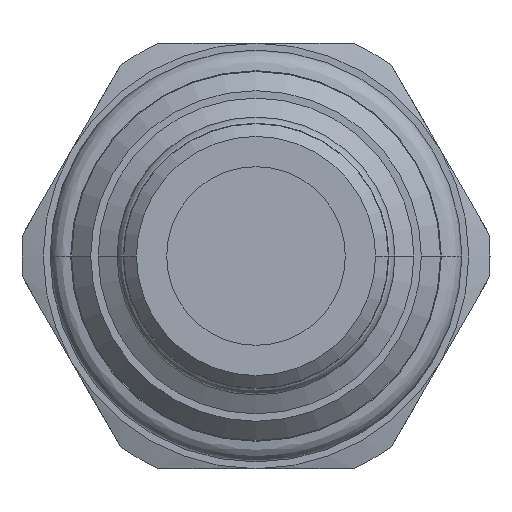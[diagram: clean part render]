
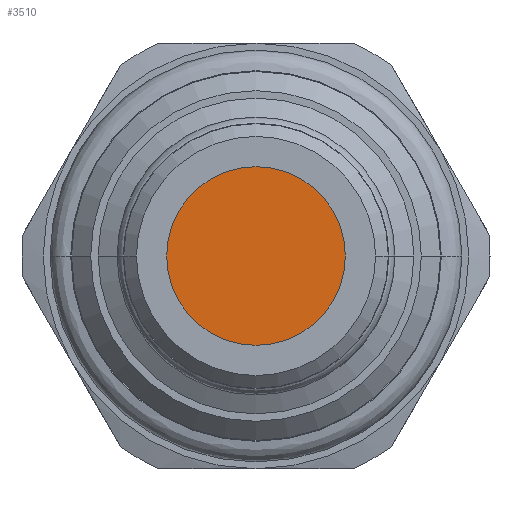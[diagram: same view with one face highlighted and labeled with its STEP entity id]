
A CAD part, front view. The second image highlights one B-rep face of the part: STEP entity #3510.
In plain terms, the highlighted planar face has unit normal (0, -1, 0).
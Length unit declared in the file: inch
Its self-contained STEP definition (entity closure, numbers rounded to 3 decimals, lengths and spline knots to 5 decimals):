
#1135=CARTESIAN_POINT('',(0.,-1.31577,0.));
#1136=DIRECTION('',(0.,-1.,0.));
#1137=DIRECTION('',(0.,0.,-1.));
#1138=AXIS2_PLACEMENT_3D('',#1135,#1136,#1137);
#1140=CARTESIAN_POINT('',(0.,-1.31577,0.));
#1141=DIRECTION('',(0.,-1.,0.));
#1142=DIRECTION('',(0.,0.,1.));
#1143=AXIS2_PLACEMENT_3D('',#1140,#1141,#1142);
#1827=CARTESIAN_POINT('',(0.,-1.31577,-0.21));
#1828=CARTESIAN_POINT('',(0.,-1.31577,0.21));
#1829=VERTEX_POINT('',#1827);
#1830=VERTEX_POINT('',#1828);
#3501=CARTESIAN_POINT('',(0.,-1.31577,0.));
#3502=DIRECTION('',(0.,-1.,0.));
#3503=DIRECTION('',(0.,0.,-1.));
#3504=AXIS2_PLACEMENT_3D('',#3501,#3502,#3503);
#3505=PLANE('',#3504);
#3506=ORIENTED_EDGE('',*,*,#3478,.F.);
#3507=ORIENTED_EDGE('',*,*,#3496,.F.);
#3508=EDGE_LOOP('',(#3506,#3507));
#3509=FACE_OUTER_BOUND('',#3508,.F.);
#3510=ADVANCED_FACE('',(#3509),#3505,.T.);
#1139=CIRCLE('',#1138,0.21);
#1144=CIRCLE('',#1143,0.21);
#3478=EDGE_CURVE('',#1829,#1830,#1139,.T.);
#3496=EDGE_CURVE('',#1830,#1829,#1144,.T.);
